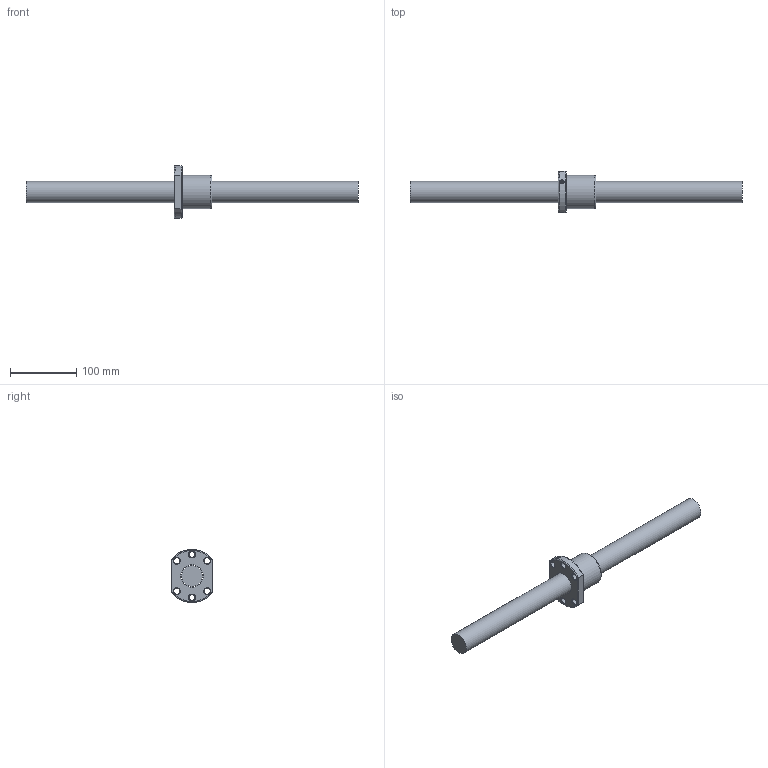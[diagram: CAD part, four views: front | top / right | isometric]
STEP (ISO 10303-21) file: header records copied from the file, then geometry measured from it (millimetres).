
FILE_DESCRIPTION (( 'STEP AP203' ), '1' );
FILE_NAME ('SFU03206D-4.step', '2024-05-14T07:04:56', ( '' ), ( '' ), 'SwSTEP 2.0', 'SolidWorks 2022', '' );
FILE_SCHEMA (( 'CONFIG_CONTROL_DESIGN' ));
Length unit declared in the file: millimetre
Products named in the file (1): SFU03206D-4
Bounding box: 500 x 62 x 79.74 mm (x, y, z)
Volume: 485279.1 mm3; surface area: 76051 mm2
Topology: 2 solids, 2 shells, 54 faces, 132 edges, 83 vertices
Faces by surface type: cylinder 19, cone 13, plane 12, bspline 5, torus 5
Full cylindrical faces by diameter (mm): 4 x1, 5 x6, 9 x6, 32 x1, 34.3 x1, 50 x1
Entity records: 3153 total; most frequent: CARTESIAN_POINT 2117, DIRECTION 186, ORIENTED_EDGE 166, EDGE_LOOP 90, AXIS2_PLACEMENT_3D 85, EDGE_CURVE 83, VERTEX_POINT 67, FACE_OUTER_BOUND 60
